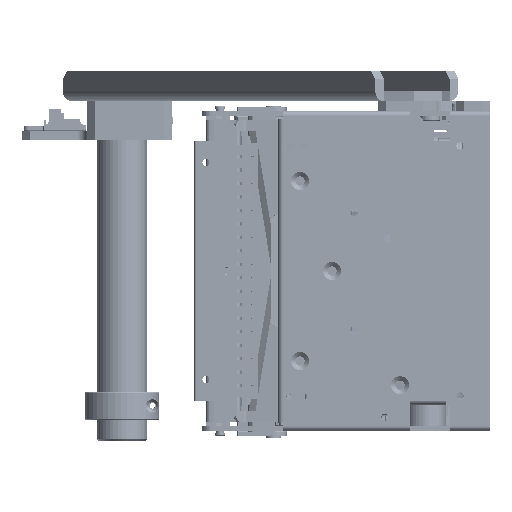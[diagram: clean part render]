
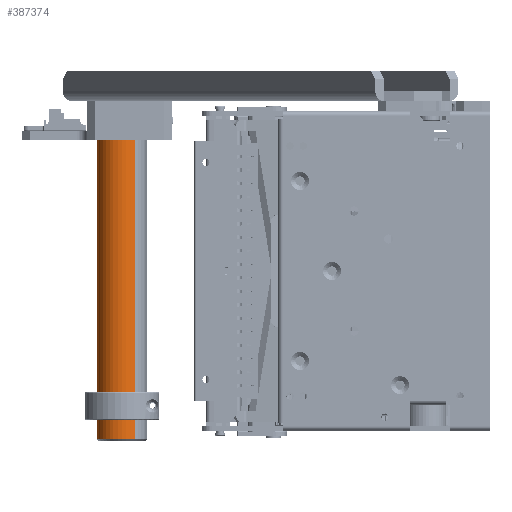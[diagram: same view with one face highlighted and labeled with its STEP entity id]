
A CAD part, left-side view. The second image highlights one B-rep face of the part: STEP entity #387374.
In plain terms, the highlighted cylindrical face has radius 7.938 mm (diameter 15.875 mm), a partial arc.
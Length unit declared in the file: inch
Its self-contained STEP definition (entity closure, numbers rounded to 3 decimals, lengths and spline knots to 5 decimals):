
#17396 = ORIENTED_EDGE ( 'NONE', *, *, #58532, .T. ) ;
#19818 = ORIENTED_EDGE ( 'NONE', *, *, #252046, .T. ) ;
#38608 = DIRECTION ( 'NONE',  ( 0., -1., 0. ) ) ;
#51965 = CIRCLE ( 'NONE', #300934, 0.3125 ) ;
#58532 = EDGE_CURVE ( 'NONE', #110563, #105334, #51965, .T. ) ;
#61180 = DIRECTION ( 'NONE',  ( 0., -1., 0. ) ) ;
#67591 = CYLINDRICAL_SURFACE ( 'NONE', #140535, 0.3125 ) ;
#70705 = VERTEX_POINT ( 'NONE', #409661 ) ;
#95306 = DIRECTION ( 'NONE',  ( 0., 1., 0. ) ) ;
#105334 = VERTEX_POINT ( 'NONE', #167604 ) ;
#110563 = VERTEX_POINT ( 'NONE', #279247 ) ;
#124077 = ORIENTED_EDGE ( 'NONE', *, *, #190895, .T. ) ;
#134520 = AXIS2_PLACEMENT_3D ( 'NONE', #366309, #61180, #197040 ) ;
#140535 = AXIS2_PLACEMENT_3D ( 'NONE', #274682, #38608, #203461 ) ;
#159660 = VECTOR ( 'NONE', #397547, 39.37008 ) ;
#166880 = VERTEX_POINT ( 'NONE', #334462 ) ;
#167604 = CARTESIAN_POINT ( 'NONE',  ( 0., 0.02, -0.3125 ) ) ;
#176156 = DIRECTION ( 'NONE',  ( 0., -1., 0. ) ) ;
#190895 = EDGE_CURVE ( 'NONE', #166880, #70705, #326522, .T. ) ;
#195508 = DIRECTION ( 'NONE',  ( 0., 0., 1. ) ) ;
#197040 = DIRECTION ( 'NONE',  ( 0., 0., 1. ) ) ;
#203461 = DIRECTION ( 'NONE',  ( 0., 0., -1. ) ) ;
#205213 = CARTESIAN_POINT ( 'NONE',  ( 0., 4.25, 0.3125 ) ) ;
#210390 = EDGE_CURVE ( 'NONE', #166880, #105334, #361931, .T. ) ;
#211190 = ORIENTED_EDGE ( 'NONE', *, *, #210390, .F. ) ;
#243023 = LINE ( 'NONE', #205213, #281878 ) ;
#252046 = EDGE_CURVE ( 'NONE', #70705, #110563, #243023, .T. ) ;
#271525 = EDGE_LOOP ( 'NONE', ( #124077, #19818, #17396, #211190 ) ) ;
#274682 = CARTESIAN_POINT ( 'NONE',  ( 0., 4.25, 0. ) ) ;
#279247 = CARTESIAN_POINT ( 'NONE',  ( 0., 0.02, 0.3125 ) ) ;
#281878 = VECTOR ( 'NONE', #176156, 39.37008 ) ;
#295109 = CARTESIAN_POINT ( 'NONE',  ( 0., 4.25, -0.3125 ) ) ;
#300934 = AXIS2_PLACEMENT_3D ( 'NONE', #393842, #95306, #195508 ) ;
#326522 = CIRCLE ( 'NONE', #134520, 0.3125 ) ;
#334462 = CARTESIAN_POINT ( 'NONE',  ( 0., 4.23, -0.3125 ) ) ;
#361931 = LINE ( 'NONE', #295109, #159660 ) ;
#366309 = CARTESIAN_POINT ( 'NONE',  ( 0., 4.23, 0. ) ) ;
#372753 = FACE_OUTER_BOUND ( 'NONE', #271525, .T. ) ;
#387374 = ADVANCED_FACE ( 'NONE', ( #372753 ), #67591, .T. ) ;
#393842 = CARTESIAN_POINT ( 'NONE',  ( 0., 0.02, 0. ) ) ;
#397547 = DIRECTION ( 'NONE',  ( 0., -1., 0. ) ) ;
#409661 = CARTESIAN_POINT ( 'NONE',  ( 0., 4.23, 0.3125 ) ) ;
